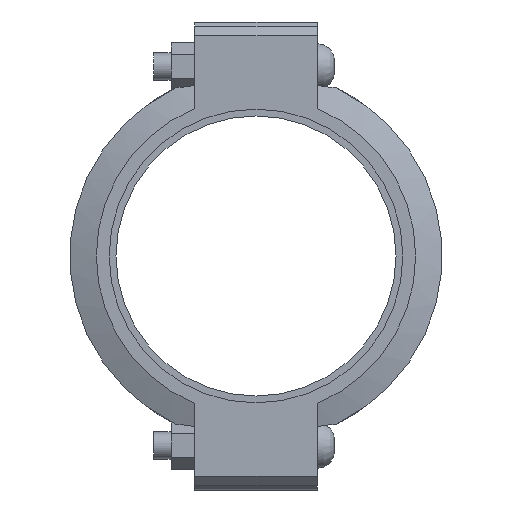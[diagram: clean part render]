
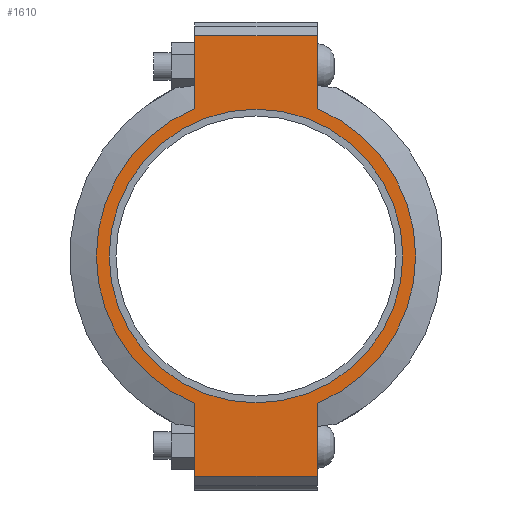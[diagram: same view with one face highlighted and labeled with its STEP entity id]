
A CAD part, left-side view. The second image highlights one B-rep face of the part: STEP entity #1610.
In plain terms, the highlighted planar face has unit normal (-1, 0, 0) as drawn and (0, 0, 1) by its records, which use the part's own axes.
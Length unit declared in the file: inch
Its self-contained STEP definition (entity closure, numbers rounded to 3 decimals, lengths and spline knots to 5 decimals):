
#180=LINE('',#2741,#269);
#191=LINE('',#2792,#280);
#197=LINE('',#2818,#286);
#199=LINE('',#2821,#288);
#200=LINE('',#2826,#289);
#201=LINE('',#2827,#290);
#269=VECTOR('',#2229,0.3937);
#280=VECTOR('',#2260,0.3937);
#286=VECTOR('',#2278,0.3937);
#288=VECTOR('',#2282,0.3937);
#289=VECTOR('',#2287,0.3937);
#290=VECTOR('',#2288,0.3937);
#352=FACE_BOUND('',#529,.T.);
#420=FACE_OUTER_BOUND('',#528,.T.);
#528=EDGE_LOOP('',(#1304,#1305,#1306,#1307,#1308,#1309,#1310,#1311));
#529=EDGE_LOOP('',(#1312));
#611=CIRCLE('',#1801,5.375);
#635=CIRCLE('',#1853,5.845);
#636=CIRCLE('',#1854,5.845);
#707=VERTEX_POINT('',#2567);
#748=VERTEX_POINT('',#2738);
#749=VERTEX_POINT('',#2740);
#766=VERTEX_POINT('',#2787);
#767=VERTEX_POINT('',#2791);
#774=VERTEX_POINT('',#2813);
#775=VERTEX_POINT('',#2817);
#776=VERTEX_POINT('',#2823);
#777=VERTEX_POINT('',#2825);
#871=EDGE_CURVE('',#707,#707,#611,.T.);
#928=EDGE_CURVE('',#749,#748,#180,.T.);
#949=EDGE_CURVE('',#767,#766,#191,.T.);
#960=EDGE_CURVE('',#775,#774,#197,.T.);
#962=EDGE_CURVE('',#775,#748,#199,.T.);
#963=EDGE_CURVE('',#774,#776,#635,.T.);
#964=EDGE_CURVE('',#776,#777,#200,.T.);
#965=EDGE_CURVE('',#767,#777,#201,.T.);
#966=EDGE_CURVE('',#766,#749,#636,.T.);
#1304=ORIENTED_EDGE('',*,*,#962,.F.);
#1305=ORIENTED_EDGE('',*,*,#960,.T.);
#1306=ORIENTED_EDGE('',*,*,#963,.T.);
#1307=ORIENTED_EDGE('',*,*,#964,.T.);
#1308=ORIENTED_EDGE('',*,*,#965,.F.);
#1309=ORIENTED_EDGE('',*,*,#949,.T.);
#1310=ORIENTED_EDGE('',*,*,#966,.T.);
#1311=ORIENTED_EDGE('',*,*,#928,.T.);
#1312=ORIENTED_EDGE('',*,*,#871,.T.);
#1449=PLANE('',#1852);
#1610=ADVANCED_FACE('',(#420,#352),#1449,.T.);
#1801=AXIS2_PLACEMENT_3D('',#2569,#2119,#2120);
#1852=AXIS2_PLACEMENT_3D('',#2822,#2283,#2284);
#1853=AXIS2_PLACEMENT_3D('',#2824,#2285,#2286);
#1854=AXIS2_PLACEMENT_3D('',#2828,#2289,#2290);
#2119=DIRECTION('center_axis',(0.,0.,-1.));
#2120=DIRECTION('ref_axis',(-1.,0.,0.));
#2229=DIRECTION('',(-1.,0.,0.));
#2260=DIRECTION('',(-1.,0.,0.));
#2278=DIRECTION('',(1.,0.,0.));
#2282=DIRECTION('',(0.,1.,0.));
#2283=DIRECTION('center_axis',(0.,0.,1.));
#2284=DIRECTION('ref_axis',(1.,0.,0.));
#2285=DIRECTION('center_axis',(0.,0.,1.));
#2286=DIRECTION('ref_axis',(-1.,0.,0.));
#2287=DIRECTION('',(1.,0.,0.));
#2288=DIRECTION('',(0.,-1.,0.));
#2289=DIRECTION('center_axis',(0.,0.,1.));
#2290=DIRECTION('ref_axis',(-1.,0.,0.));
#2567=CARTESIAN_POINT('',(5.375,0.,1.315));
#2569=CARTESIAN_POINT('Origin',(0.,0.,1.315));
#2738=CARTESIAN_POINT('',(-8.065,2.25,1.315));
#2740=CARTESIAN_POINT('',(-5.39458,2.25,1.315));
#2741=CARTESIAN_POINT('',(8.565,2.25,1.315));
#2787=CARTESIAN_POINT('',(5.39458,2.25,1.315));
#2791=CARTESIAN_POINT('',(8.065,2.25,1.315));
#2792=CARTESIAN_POINT('',(8.565,2.25,1.315));
#2813=CARTESIAN_POINT('',(-5.39458,-2.25,1.315));
#2817=CARTESIAN_POINT('',(-8.065,-2.25,1.315));
#2818=CARTESIAN_POINT('',(-8.565,-2.25,1.315));
#2821=CARTESIAN_POINT('',(-8.065,1.125,1.315));
#2822=CARTESIAN_POINT('Origin',(0.,0.,
1.315));
#2823=CARTESIAN_POINT('',(5.39458,-2.25,1.315));
#2824=CARTESIAN_POINT('Origin',(0.,0.,1.315));
#2825=CARTESIAN_POINT('',(8.065,-2.25,1.315));
#2826=CARTESIAN_POINT('',(-8.565,-2.25,1.315));
#2827=CARTESIAN_POINT('',(8.065,-1.125,1.315));
#2828=CARTESIAN_POINT('Origin',(0.,0.,1.315));
